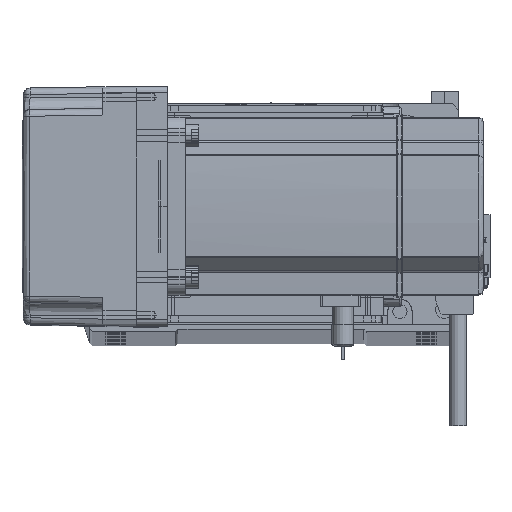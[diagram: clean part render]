
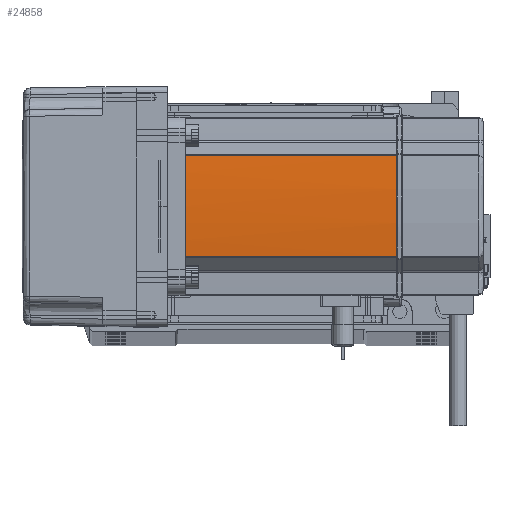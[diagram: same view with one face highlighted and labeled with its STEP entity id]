
A CAD part, top view. The second image highlights one B-rep face of the part: STEP entity #24858.
In plain terms, the highlighted cylindrical face has radius 270 mm (diameter 540 mm), a partial arc.
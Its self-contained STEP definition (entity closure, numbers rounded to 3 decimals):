
#630 = EDGE_CURVE ( 'NONE', #50322, #44825, #9513, .T. ) ;
#1446 = DIRECTION ( 'NONE',  ( 0., 0., -1. ) ) ;
#2049 = DIRECTION ( 'NONE',  ( 0., 0., -1. ) ) ;
#3828 = CIRCLE ( 'NONE', #56600, 270. ) ;
#7861 = EDGE_CURVE ( 'NONE', #8712, #18052, #33266, .T. ) ;
#8712 = VERTEX_POINT ( 'NONE', #66095 ) ;
#9456 = CARTESIAN_POINT ( 'NONE',  ( -230., 0., 58. ) ) ;
#9513 = CIRCLE ( 'NONE', #30446, 270. ) ;
#9883 = CARTESIAN_POINT ( 'NONE',  ( 39.042, -22.724, 134. ) ) ;
#10059 = CARTESIAN_POINT ( 'NONE',  ( 39.042, 22.724, 58. ) ) ;
#10378 = CYLINDRICAL_SURFACE ( 'NONE', #16540, 270. ) ;
#12164 = DIRECTION ( 'NONE',  ( -1., 0., 0. ) ) ;
#13271 = CARTESIAN_POINT ( 'NONE',  ( 39.042, 22.724, 39. ) ) ;
#13353 = CARTESIAN_POINT ( 'NONE',  ( 40., -0.042, 134. ) ) ;
#14033 = CARTESIAN_POINT ( 'NONE',  ( 40., 0.042, 134. ) ) ;
#14215 = ORIENTED_EDGE ( 'NONE', *, *, #26265, .F. ) ;
#16232 = ORIENTED_EDGE ( 'NONE', *, *, #7861, .T. ) ;
#16392 = ORIENTED_EDGE ( 'NONE', *, *, #630, .F. ) ;
#16540 = AXIS2_PLACEMENT_3D ( 'NONE', #9456, #46530, #51825 ) ;
#18052 = VERTEX_POINT ( 'NONE', #28005 ) ;
#18702 = FACE_OUTER_BOUND ( 'NONE', #58241, .T. ) ;
#18940 = VECTOR ( 'NONE', #46894, 1000. ) ;
#19617 = ORIENTED_EDGE ( 'NONE', *, *, #24722, .T. ) ;
#19803 = VECTOR ( 'NONE', #1446, 1000. ) ;
#20569 = B_SPLINE_CURVE_WITH_KNOTS ( 'NONE', 3,
 ( #45578, #13353, #14033, #34525 ),
 .UNSPECIFIED., .F., .F.,
 ( 4, 4 ),
 ( 0., 1. ),
 .UNSPECIFIED. ) ;
#20800 = LINE ( 'NONE', #10059, #18940 ) ;
#22523 = EDGE_CURVE ( 'NONE', #55523, #44825, #63481, .T. ) ;
#22554 = CARTESIAN_POINT ( 'NONE',  ( -230., 0., 134. ) ) ;
#24722 = EDGE_CURVE ( 'NONE', #43608, #55523, #3828, .T. ) ;
#24858 = ADVANCED_FACE ( 'NONE', ( #18702 ), #10378, .T. ) ;
#26265 = EDGE_CURVE ( 'NONE', #43608, #18052, #20569, .T. ) ;
#28005 = CARTESIAN_POINT ( 'NONE',  ( 40., 0.127, 134. ) ) ;
#30161 = DIRECTION ( 'NONE',  ( -1., 0., 0. ) ) ;
#30446 = AXIS2_PLACEMENT_3D ( 'NONE', #39636, #45377, #30161 ) ;
#33266 = CIRCLE ( 'NONE', #59845, 270. ) ;
#34525 = CARTESIAN_POINT ( 'NONE',  ( 40., 0.127, 134. ) ) ;
#35450 = EDGE_CURVE ( 'NONE', #50322, #8712, #20800, .T. ) ;
#37644 = CARTESIAN_POINT ( 'NONE',  ( 39.042, -22.724, 58. ) ) ;
#39636 = CARTESIAN_POINT ( 'NONE',  ( -230., 0., 39. ) ) ;
#43608 = VERTEX_POINT ( 'NONE', #56572 ) ;
#44825 = VERTEX_POINT ( 'NONE', #61294 ) ;
#45377 = DIRECTION ( 'NONE',  ( 0., 0., -1. ) ) ;
#45578 = CARTESIAN_POINT ( 'NONE',  ( 40., -0.127, 134. ) ) ;
#45731 = ORIENTED_EDGE ( 'NONE', *, *, #22523, .T. ) ;
#46530 = DIRECTION ( 'NONE',  ( 0., 0., -1. ) ) ;
#46894 = DIRECTION ( 'NONE',  ( 0., 0., 1. ) ) ;
#50322 = VERTEX_POINT ( 'NONE', #13271 ) ;
#51825 = DIRECTION ( 'NONE',  ( -1., 0., 0. ) ) ;
#55523 = VERTEX_POINT ( 'NONE', #9883 ) ;
#56572 = CARTESIAN_POINT ( 'NONE',  ( 40., -0.127, 134. ) ) ;
#56600 = AXIS2_PLACEMENT_3D ( 'NONE', #66744, #2049, #66976 ) ;
#58241 = EDGE_LOOP ( 'NONE', ( #45731, #16392, #67689, #16232, #14215, #19617 ) ) ;
#59324 = DIRECTION ( 'NONE',  ( 0., 0., -1. ) ) ;
#59845 = AXIS2_PLACEMENT_3D ( 'NONE', #22554, #59324, #12164 ) ;
#61294 = CARTESIAN_POINT ( 'NONE',  ( 39.042, -22.724, 39. ) ) ;
#63481 = LINE ( 'NONE', #37644, #19803 ) ;
#66095 = CARTESIAN_POINT ( 'NONE',  ( 39.042, 22.724, 134. ) ) ;
#66744 = CARTESIAN_POINT ( 'NONE',  ( -230., 0., 134. ) ) ;
#66976 = DIRECTION ( 'NONE',  ( -1., 0., 0. ) ) ;
#67689 = ORIENTED_EDGE ( 'NONE', *, *, #35450, .T. ) ;
